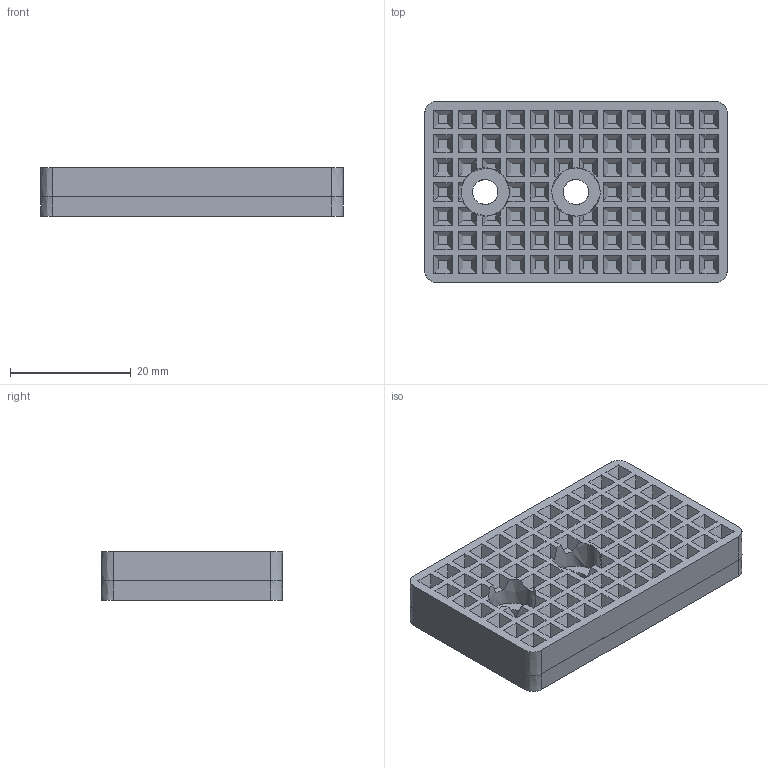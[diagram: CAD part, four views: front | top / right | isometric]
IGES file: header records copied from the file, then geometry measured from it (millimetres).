
Start section:  PTC IGES file: 370836_cp-061.igs
Global section: file name: 370836_cp-061.igs; native system: Pro/ENGINEER by Parametric Technology Corporation; preprocessor: 2004090; author: KAIHATSU01; organization: Unknown; date: 061017.093031; units: millimetre
Bounding box: 50 x 30 x 8 mm (x, y, z)
Volume: 10495.7 mm3; surface area: 5474.4 mm2
Topology: 1 solids, 1 shells, 440 faces, 1086 edges, 724 vertices
Faces by surface type: bspline 440
